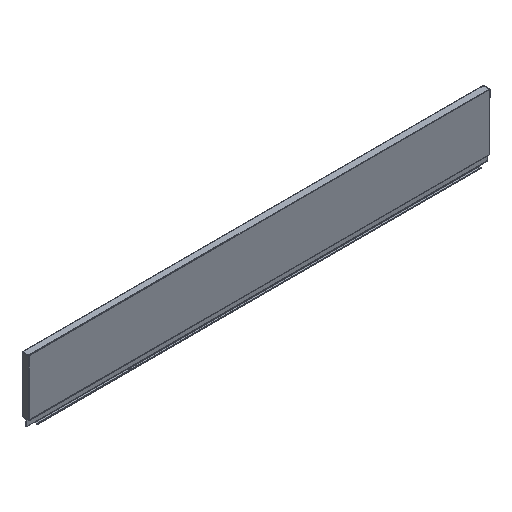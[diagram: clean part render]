
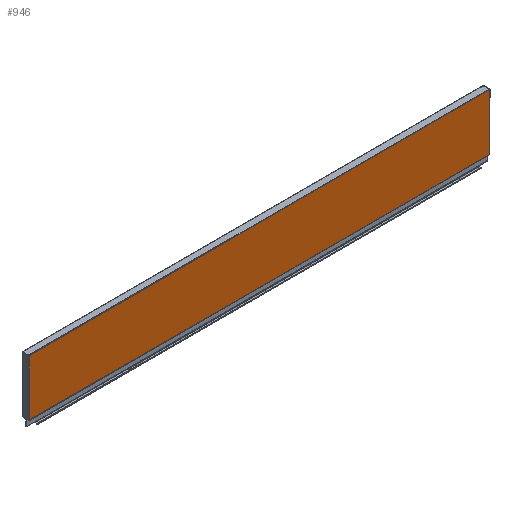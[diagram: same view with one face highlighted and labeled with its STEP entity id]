
A CAD part, isometric view. The second image highlights one B-rep face of the part: STEP entity #946.
In plain terms, the highlighted planar face has unit normal (0, -1, 0).
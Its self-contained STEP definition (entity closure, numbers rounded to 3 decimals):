
#231 = DIRECTION ( 'NONE',  ( 1., 0., 0. ) ) ;
#233 = CARTESIAN_POINT ( 'NONE',  ( -555., -6., 17. ) ) ;
#235 = DIRECTION ( 'NONE',  ( 0., 0., 1. ) ) ;
#236 = CARTESIAN_POINT ( 'NONE',  ( 553.5, -6., 15.3 ) ) ;
#237 = DIRECTION ( 'NONE',  ( 1., 0., 0. ) ) ;
#239 = CARTESIAN_POINT ( 'NONE',  ( 553.5, -6., 17.5 ) ) ;
#241 = DIRECTION ( 'NONE',  ( 0., 0., -1. ) ) ;
#242 = CARTESIAN_POINT ( 'NONE',  ( 554., -6., 170.385 ) ) ;
#243 = DIRECTION ( 'NONE',  ( 0., 0., -1. ) ) ;
#245 = CARTESIAN_POINT ( 'NONE',  ( 554., -6., 170.385 ) ) ;
#271 = DIRECTION ( 'NONE',  ( 0., 0., -1. ) ) ;
#272 = CARTESIAN_POINT ( 'NONE',  ( -554., -6., 170.385 ) ) ;
#273 = DIRECTION ( 'NONE',  ( 1., 0., 0. ) ) ;
#274 = CARTESIAN_POINT ( 'NONE',  ( -555., -6., 17.5 ) ) ;
#275 = DIRECTION ( 'NONE',  ( 0., 0., -1. ) ) ;
#276 = CARTESIAN_POINT ( 'NONE',  ( -553.5, -6., 17.5 ) ) ;
#279 = CARTESIAN_POINT ( 'NONE',  ( 553.5, -6., 17. ) ) ;
#298 = CARTESIAN_POINT ( 'NONE',  ( 554., -6., 151.5 ) ) ;
#303 = CARTESIAN_POINT ( 'NONE',  ( -554., -6., 151.5 ) ) ;
#311 = CARTESIAN_POINT ( 'NONE',  ( -554., -6., 17.5 ) ) ;
#314 = CARTESIAN_POINT ( 'NONE',  ( 554., -6., 152. ) ) ;
#325 = CARTESIAN_POINT ( 'NONE',  ( -553.5, -6., 17. ) ) ;
#328 = CARTESIAN_POINT ( 'NONE',  ( -554., -6., 152. ) ) ;
#355 = CARTESIAN_POINT ( 'NONE',  ( -553.5, -6., 17.5 ) ) ;
#356 = CARTESIAN_POINT ( 'NONE',  ( 554., -6., 17.5 ) ) ;
#358 = CARTESIAN_POINT ( 'NONE',  ( 553.5, -6., 17.5 ) ) ;
#430 = VERTEX_POINT ( 'NONE', #358 ) ;
#432 = VERTEX_POINT ( 'NONE', #356 ) ;
#433 = VERTEX_POINT ( 'NONE', #355 ) ;
#464 = VERTEX_POINT ( 'NONE', #328 ) ;
#467 = VERTEX_POINT ( 'NONE', #325 ) ;
#492 = VERTEX_POINT ( 'NONE', #314 ) ;
#495 = VERTEX_POINT ( 'NONE', #311 ) ;
#503 = VERTEX_POINT ( 'NONE', #303 ) ;
#508 = VERTEX_POINT ( 'NONE', #298 ) ;
#524 = VERTEX_POINT ( 'NONE', #279 ) ;
#529 = EDGE_CURVE ( 'NONE', #433, #467, #1582, .T. ) ;
#530 = EDGE_CURVE ( 'NONE', #495, #433, #1584, .T. ) ;
#531 = EDGE_CURVE ( 'NONE', #503, #495, #1586, .T. ) ;
#539 = EDGE_CURVE ( 'NONE', #492, #508, #1601, .T. ) ;
#540 = EDGE_CURVE ( 'NONE', #508, #432, #1603, .T. ) ;
#541 = EDGE_CURVE ( 'NONE', #430, #432, #1605, .T. ) ;
#542 = EDGE_CURVE ( 'NONE', #524, #430, #1607, .T. ) ;
#543 = EDGE_CURVE ( 'NONE', #467, #524, #1609, .T. ) ;
#730 = EDGE_CURVE ( 'NONE', #464, #503, #1945, .T. ) ;
#731 = EDGE_CURVE ( 'NONE', #464, #492, #1947, .T. ) ;
#862 = AXIS2_PLACEMENT_3D ( 'NONE', #2447, #2448, #2449 ) ;
#946 = ADVANCED_FACE ( 'NONE', ( #2062 ), #2446, .T. ) ;
#1076 = EDGE_LOOP ( 'NONE', ( #1572, #1571, #1570, #1569, #1568, #1567, #1566, #1565, #1564, #1563 ) ) ;
#1563 = ORIENTED_EDGE ( 'NONE', *, *, #730, .T. ) ;
#1564 = ORIENTED_EDGE ( 'NONE', *, *, #731, .F. ) ;
#1565 = ORIENTED_EDGE ( 'NONE', *, *, #539, .F. ) ;
#1566 = ORIENTED_EDGE ( 'NONE', *, *, #540, .F. ) ;
#1567 = ORIENTED_EDGE ( 'NONE', *, *, #541, .T. ) ;
#1568 = ORIENTED_EDGE ( 'NONE', *, *, #542, .T. ) ;
#1569 = ORIENTED_EDGE ( 'NONE', *, *, #543, .T. ) ;
#1570 = ORIENTED_EDGE ( 'NONE', *, *, #529, .T. ) ;
#1571 = ORIENTED_EDGE ( 'NONE', *, *, #530, .T. ) ;
#1572 = ORIENTED_EDGE ( 'NONE', *, *, #531, .T. ) ;
#1582 = LINE ( 'NONE', #276, #1583 ) ;
#1583 = VECTOR ( 'NONE', #275, 1000. ) ;
#1584 = LINE ( 'NONE', #274, #1585 ) ;
#1585 = VECTOR ( 'NONE', #273, 1000. ) ;
#1586 = LINE ( 'NONE', #272, #1587 ) ;
#1587 = VECTOR ( 'NONE', #271, 1000. ) ;
#1601 = LINE ( 'NONE', #245, #1602 ) ;
#1602 = VECTOR ( 'NONE', #243, 1000. ) ;
#1603 = LINE ( 'NONE', #242, #1604 ) ;
#1604 = VECTOR ( 'NONE', #241, 1000. ) ;
#1605 = LINE ( 'NONE', #239, #1606 ) ;
#1606 = VECTOR ( 'NONE', #237, 1000. ) ;
#1607 = LINE ( 'NONE', #236, #1608 ) ;
#1608 = VECTOR ( 'NONE', #235, 1000. ) ;
#1609 = LINE ( 'NONE', #233, #1610 ) ;
#1610 = VECTOR ( 'NONE', #231, 1000. ) ;
#1945 = LINE ( 'NONE', #2245, #1946 ) ;
#1946 = VECTOR ( 'NONE', #2241, 1000. ) ;
#1947 = LINE ( 'NONE', #2234, #1948 ) ;
#1948 = VECTOR ( 'NONE', #2233, 1000. ) ;
#2062 = FACE_OUTER_BOUND ( 'NONE', #1076, .T. ) ;
#2233 = DIRECTION ( 'NONE',  ( 1., 0., 0. ) ) ;
#2234 = CARTESIAN_POINT ( 'NONE',  ( -555., -6., 152. ) ) ;
#2241 = DIRECTION ( 'NONE',  ( 0., 0., -1. ) ) ;
#2245 = CARTESIAN_POINT ( 'NONE',  ( -554., -6., 170.385 ) ) ;
#2446 = PLANE ( 'NONE',  #862 ) ;
#2447 = CARTESIAN_POINT ( 'NONE',  ( -555., -6., 17. ) ) ;
#2448 = DIRECTION ( 'NONE',  ( 0., -1., 0. ) ) ;
#2449 = DIRECTION ( 'NONE',  ( 1., 0., 0. ) ) ;
